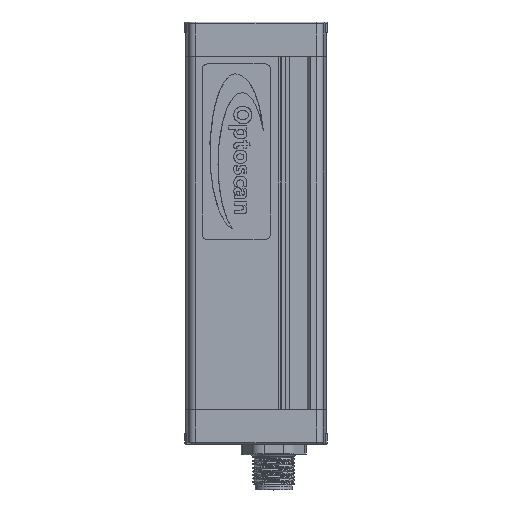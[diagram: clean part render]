
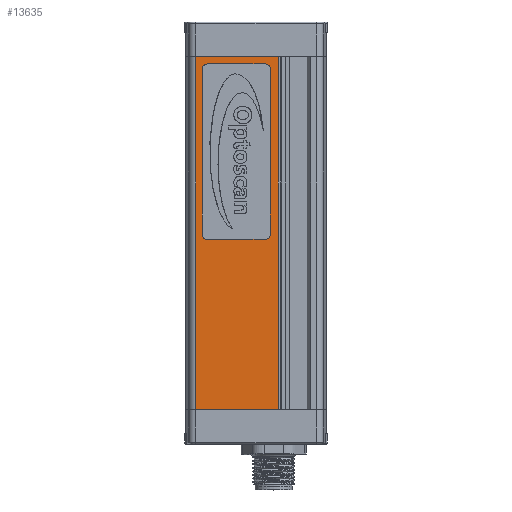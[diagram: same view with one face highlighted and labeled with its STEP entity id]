
A CAD part, top view. The second image highlights one B-rep face of the part: STEP entity #13635.
In plain terms, the highlighted planar face has unit normal (0, 0, 1).
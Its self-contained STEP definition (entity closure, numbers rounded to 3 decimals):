
#165=FACE_BOUND('',#2115,.T.);
#475=CIRCLE('',#14507,1.49);
#476=CIRCLE('',#14508,1.49);
#477=CIRCLE('',#14509,1.49);
#478=CIRCLE('',#14510,1.49);
#992=PLANE('',#14506);
#1357=FACE_OUTER_BOUND('',#2114,.T.);
#2114=EDGE_LOOP('',(#9142,#9143,#9144,#9145));
#2115=EDGE_LOOP('',(#9146,#9147,#9148,#9149,#9150,#9151,#9152,#9153));
#3341=LINE('',#20186,#4403);
#3353=LINE('',#20220,#4415);
#3367=LINE('',#20257,#4429);
#3368=LINE('',#20258,#4430);
#3369=LINE('',#20263,#4431);
#3370=LINE('',#20267,#4432);
#3371=LINE('',#20271,#4433);
#3372=LINE('',#20274,#4434);
#4403=VECTOR('',#16079,10.);
#4415=VECTOR('',#16103,10.);
#4429=VECTOR('',#16131,10.);
#4430=VECTOR('',#16132,10.);
#4431=VECTOR('',#16135,10.);
#4432=VECTOR('',#16138,10.);
#4433=VECTOR('',#16141,10.);
#4434=VECTOR('',#16144,10.);
#5562=VERTEX_POINT('',#20183);
#5563=VERTEX_POINT('',#20185);
#5578=VERTEX_POINT('',#20217);
#5579=VERTEX_POINT('',#20219);
#5596=VERTEX_POINT('',#20259);
#5597=VERTEX_POINT('',#20260);
#5598=VERTEX_POINT('',#20262);
#5599=VERTEX_POINT('',#20264);
#5600=VERTEX_POINT('',#20266);
#5601=VERTEX_POINT('',#20268);
#5602=VERTEX_POINT('',#20270);
#5603=VERTEX_POINT('',#20272);
#6916=EDGE_CURVE('',#5562,#5563,#3341,.T.);
#6932=EDGE_CURVE('',#5579,#5578,#3353,.T.);
#6950=EDGE_CURVE('',#5578,#5563,#3367,.T.);
#6951=EDGE_CURVE('',#5579,#5562,#3368,.T.);
#6952=EDGE_CURVE('',#5596,#5597,#475,.T.);
#6953=EDGE_CURVE('',#5598,#5596,#3369,.T.);
#6954=EDGE_CURVE('',#5599,#5598,#476,.T.);
#6955=EDGE_CURVE('',#5600,#5599,#3370,.T.);
#6956=EDGE_CURVE('',#5601,#5600,#477,.T.);
#6957=EDGE_CURVE('',#5602,#5601,#3371,.T.);
#6958=EDGE_CURVE('',#5603,#5602,#478,.T.);
#6959=EDGE_CURVE('',#5597,#5603,#3372,.T.);
#9142=ORIENTED_EDGE('',*,*,#6932,.T.);
#9143=ORIENTED_EDGE('',*,*,#6950,.T.);
#9144=ORIENTED_EDGE('',*,*,#6916,.F.);
#9145=ORIENTED_EDGE('',*,*,#6951,.F.);
#9146=ORIENTED_EDGE('',*,*,#6952,.F.);
#9147=ORIENTED_EDGE('',*,*,#6953,.F.);
#9148=ORIENTED_EDGE('',*,*,#6954,.F.);
#9149=ORIENTED_EDGE('',*,*,#6955,.F.);
#9150=ORIENTED_EDGE('',*,*,#6956,.F.);
#9151=ORIENTED_EDGE('',*,*,#6957,.F.);
#9152=ORIENTED_EDGE('',*,*,#6958,.F.);
#9153=ORIENTED_EDGE('',*,*,#6959,.F.);
#13635=ADVANCED_FACE('',(#1357,#165),#992,.T.);
#14506=AXIS2_PLACEMENT_3D('',#20256,#16129,#16130);
#14507=AXIS2_PLACEMENT_3D('',#20261,#16133,#16134);
#14508=AXIS2_PLACEMENT_3D('',#20265,#16136,#16137);
#14509=AXIS2_PLACEMENT_3D('',#20269,#16139,#16140);
#14510=AXIS2_PLACEMENT_3D('',#20273,#16142,#16143);
#16079=DIRECTION('',(1.,0.,0.));
#16103=DIRECTION('',(1.,0.,0.));
#16129=DIRECTION('center_axis',(0.,0.,
1.));
#16130=DIRECTION('ref_axis',(1.,0.,0.));
#16131=DIRECTION('',(0.,1.,0.));
#16132=DIRECTION('',(0.,1.,0.));
#16133=DIRECTION('center_axis',(0.,0.,
1.));
#16134=DIRECTION('ref_axis',(0.707,0.707,0.));
#16135=DIRECTION('',(0.,1.,0.));
#16136=DIRECTION('center_axis',(0.,0.,
1.));
#16137=DIRECTION('ref_axis',(0.707,-0.707,0.));
#16138=DIRECTION('',(1.,0.,0.));
#16139=DIRECTION('center_axis',(0.,0.,
1.));
#16140=DIRECTION('ref_axis',(-0.707,-0.707,0.));
#16141=DIRECTION('',(0.,-1.,0.));
#16142=DIRECTION('center_axis',(0.,0.,
1.));
#16143=DIRECTION('ref_axis',(-0.707,0.707,0.));
#16144=DIRECTION('',(-1.,0.,0.));
#20183=CARTESIAN_POINT('',(-12.565,100.,1.277));
#20185=CARTESIAN_POINT('',(10.736,100.,1.277));
#20186=CARTESIAN_POINT('',(-12.565,100.,1.277));
#20217=CARTESIAN_POINT('',(10.736,0.,1.277));
#20219=CARTESIAN_POINT('',(-12.565,0.,1.277));
#20220=CARTESIAN_POINT('',(-12.565,0.,1.277));
#20256=CARTESIAN_POINT('Origin',(-12.565,0.,
1.277));
#20257=CARTESIAN_POINT('',(10.736,0.,1.277));
#20258=CARTESIAN_POINT('',(-12.565,0.,1.277));
#20259=CARTESIAN_POINT('',(8.576,96.5,1.277));
#20260=CARTESIAN_POINT('',(7.086,97.99,1.277));
#20261=CARTESIAN_POINT('Origin',(7.086,96.5,1.277));
#20262=CARTESIAN_POINT('',(8.576,49.7,1.277));
#20263=CARTESIAN_POINT('',(8.576,61.4,1.277));
#20264=CARTESIAN_POINT('',(7.086,48.21,1.277));
#20265=CARTESIAN_POINT('Origin',(7.086,49.7,1.277));
#20266=CARTESIAN_POINT('',(-9.314,48.21,1.277));
#20267=CARTESIAN_POINT('',(-5.214,48.21,1.277));
#20268=CARTESIAN_POINT('',(-10.804,49.7,1.277));
#20269=CARTESIAN_POINT('Origin',(-9.314,49.7,1.277));
#20270=CARTESIAN_POINT('',(-10.804,96.5,1.277));
#20271=CARTESIAN_POINT('',(-10.804,84.8,1.277));
#20272=CARTESIAN_POINT('',(-9.314,97.99,1.277));
#20273=CARTESIAN_POINT('Origin',(-9.314,96.5,1.277));
#20274=CARTESIAN_POINT('',(2.986,97.99,1.277));
